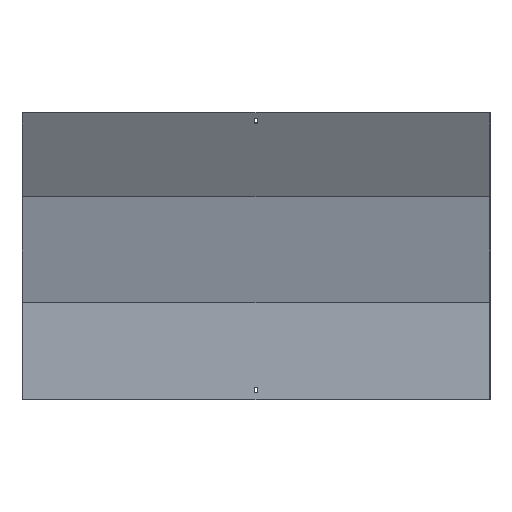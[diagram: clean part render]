
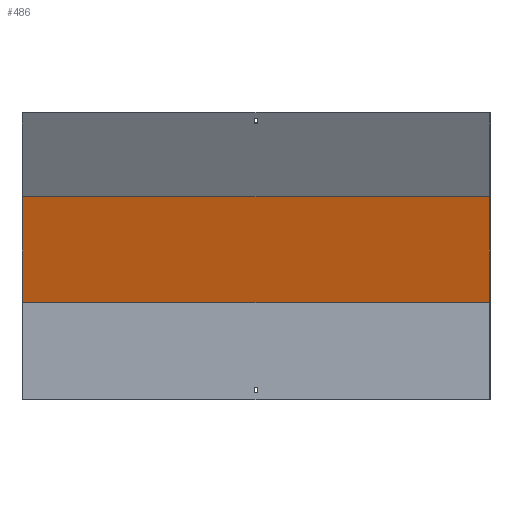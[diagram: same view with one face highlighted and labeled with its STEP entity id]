
A CAD part, front view. The second image highlights one B-rep face of the part: STEP entity #486.
In plain terms, the highlighted planar face has unit normal (0, -0.966, -0.259).
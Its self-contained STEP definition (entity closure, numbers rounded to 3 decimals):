
#12 = VERTEX_POINT ( 'NONE', #618 ) ;
#58 = CARTESIAN_POINT ( 'NONE',  ( 401.5, 17.87, 168.788 ) ) ;
#70 = LINE ( 'NONE', #840, #600 ) ;
#75 = EDGE_CURVE ( 'NONE', #468, #772, #503, .T. ) ;
#79 = LINE ( 'NONE', #265, #213 ) ;
#105 = ORIENTED_EDGE ( 'NONE', *, *, #244, .F. ) ;
#135 = DIRECTION ( 'NONE',  ( 0., -0.966, -0.259 ) ) ;
#200 = DIRECTION ( 'NONE',  ( 0., 0.259, -0.966 ) ) ;
#210 = DIRECTION ( 'NONE',  ( -1., 0., 0. ) ) ;
#213 = VECTOR ( 'NONE', #210, 1000. ) ;
#216 = EDGE_CURVE ( 'NONE', #12, #402, #70, .T. ) ;
#220 = DIRECTION ( 'NONE',  ( -1., 0., 0. ) ) ;
#244 = EDGE_CURVE ( 'NONE', #12, #468, #79, .T. ) ;
#245 = ORIENTED_EDGE ( 'NONE', *, *, #75, .F. ) ;
#247 = DIRECTION ( 'NONE',  ( 0., -0.259, 0.966 ) ) ;
#265 = CARTESIAN_POINT ( 'NONE',  ( 401.5, 18.5, 166.436 ) ) ;
#291 = CARTESIAN_POINT ( 'NONE',  ( 400., -30.383, 348.871 ) ) ;
#295 = PLANE ( 'NONE',  #734 ) ;
#312 = FACE_OUTER_BOUND ( 'NONE', #775, .T. ) ;
#316 = VECTOR ( 'NONE', #767, 1000. ) ;
#402 = VERTEX_POINT ( 'NONE', #291 ) ;
#429 = CARTESIAN_POINT ( 'NONE',  ( 401.5, -30.383, 348.871 ) ) ;
#468 = VERTEX_POINT ( 'NONE', #585 ) ;
#486 = ADVANCED_FACE ( 'NONE', ( #312 ), #295, .T. ) ;
#503 = LINE ( 'NONE', #629, #316 ) ;
#537 = LINE ( 'NONE', #429, #847 ) ;
#585 = CARTESIAN_POINT ( 'NONE',  ( -400., 18.5, 166.436 ) ) ;
#600 = VECTOR ( 'NONE', #247, 1000. ) ;
#615 = EDGE_CURVE ( 'NONE', #402, #772, #537, .T. ) ;
#618 = CARTESIAN_POINT ( 'NONE',  ( 400., 18.5, 166.436 ) ) ;
#629 = CARTESIAN_POINT ( 'NONE',  ( -400., 58.87, 15.774 ) ) ;
#644 = ORIENTED_EDGE ( 'NONE', *, *, #216, .T. ) ;
#650 = ORIENTED_EDGE ( 'NONE', *, *, #615, .T. ) ;
#664 = CARTESIAN_POINT ( 'NONE',  ( -400., -30.383, 348.871 ) ) ;
#734 = AXIS2_PLACEMENT_3D ( 'NONE', #58, #135, #200 ) ;
#767 = DIRECTION ( 'NONE',  ( 0., -0.259, 0.966 ) ) ;
#772 = VERTEX_POINT ( 'NONE', #664 ) ;
#775 = EDGE_LOOP ( 'NONE', ( #245, #105, #644, #650 ) ) ;
#840 = CARTESIAN_POINT ( 'NONE',  ( 400., 58.87, 15.774 ) ) ;
#847 = VECTOR ( 'NONE', #220, 1000. ) ;
